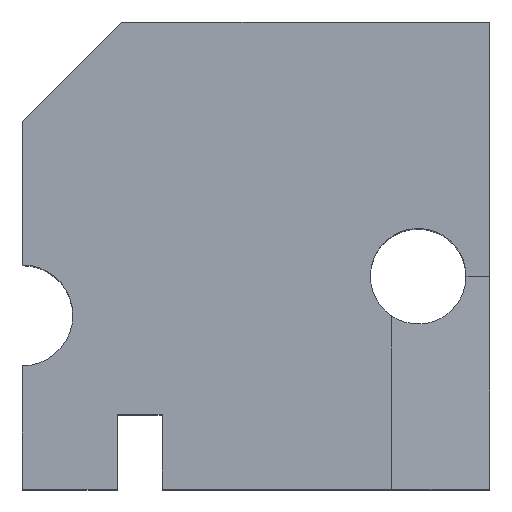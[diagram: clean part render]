
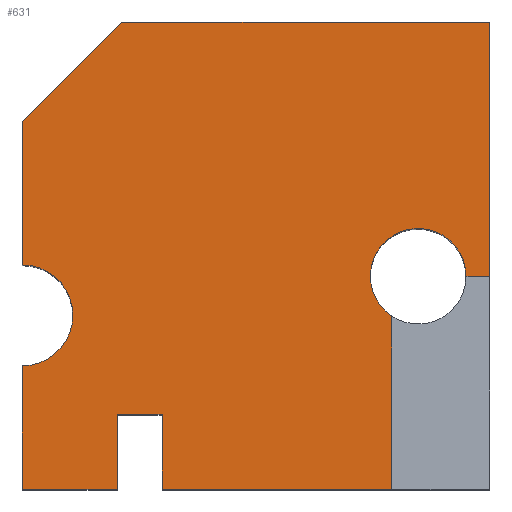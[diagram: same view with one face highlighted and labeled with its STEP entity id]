
A CAD part, top view. The second image highlights one B-rep face of the part: STEP entity #631.
In plain terms, the highlighted planar face has unit normal (0, 0, 1).
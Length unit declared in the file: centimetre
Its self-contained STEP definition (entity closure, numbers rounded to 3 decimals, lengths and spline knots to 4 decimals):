
#28 = LINE ( 'NONE', #947, #706 ) ;
#31 = VERTEX_POINT ( 'NONE', #771 ) ;
#32 = CARTESIAN_POINT ( 'NONE',  ( 790.2859, 455.4262, 1000. ) ) ;
#42 = CARTESIAN_POINT ( 'NONE',  ( 847.1311, 455.8057, 1000. ) ) ;
#52 = AXIS2_PLACEMENT_3D ( 'NONE', #979, #162, #62 ) ;
#54 = VECTOR ( 'NONE', #1083, 100. ) ;
#55 = DIRECTION ( 'NONE',  ( 0., 1., 0. ) ) ;
#56 = EDGE_CURVE ( 'NONE', #358, #1098, #28, .T. ) ;
#62 = DIRECTION ( 'NONE',  ( 1., 0., 0. ) ) ;
#73 = VERTEX_POINT ( 'NONE', #421 ) ;
#78 = AXIS2_PLACEMENT_3D ( 'NONE', #1107, #1118, #217 ) ;
#93 = CARTESIAN_POINT ( 'NONE',  ( 298.9238, 0., 1000. ) ) ;
#108 = DIRECTION ( 'NONE',  ( 0., 0., 1. ) ) ;
#116 = VERTEX_POINT ( 'NONE', #895 ) ;
#118 = CIRCLE ( 'NONE', #1010, 102.2725 ) ;
#134 = LINE ( 'NONE', #323, #977 ) ;
#138 = CIRCLE ( 'NONE', #78, 107.9586 ) ;
#143 = ORIENTED_EDGE ( 'NONE', *, *, #275, .T. ) ;
#145 = ORIENTED_EDGE ( 'NONE', *, *, #901, .F. ) ;
#162 = DIRECTION ( 'NONE',  ( 0., 0., 1. ) ) ;
#177 = CARTESIAN_POINT ( 'NONE',  ( 212.5578, 1000., 1000. ) ) ;
#198 = VERTEX_POINT ( 'NONE', #516 ) ;
#214 = EDGE_CURVE ( 'NONE', #1072, #554, #703, .T. ) ;
#217 = DIRECTION ( 'NONE',  ( -1., 0., 0. ) ) ;
#222 = VECTOR ( 'NONE', #55, 100. ) ;
#228 = AXIS2_PLACEMENT_3D ( 'NONE', #482, #108, #1004 ) ;
#261 = ORIENTED_EDGE ( 'NONE', *, *, #590, .T. ) ;
#271 = CARTESIAN_POINT ( 'NONE',  ( 203.0659, 159.9605, 1000. ) ) ;
#275 = EDGE_CURVE ( 'NONE', #1061, #471, #783, .T. ) ;
#279 = CARTESIAN_POINT ( 'NONE',  ( 0., 0., 1000. ) ) ;
#298 = EDGE_CURVE ( 'NONE', #471, #1019, #600, .T. ) ;
#301 = CARTESIAN_POINT ( 'NONE',  ( 744.8587, 455.8057, 1000. ) ) ;
#311 = DIRECTION ( 'NONE',  ( 0., -1., 0. ) ) ;
#314 = VECTOR ( 'NONE', #311, 100. ) ;
#320 = DIRECTION ( 'NONE',  ( 1., 0., 0. ) ) ;
#323 = CARTESIAN_POINT ( 'NONE',  ( 0., 0., 1000. ) ) ;
#344 = DIRECTION ( 'NONE',  ( 0., -1., 0. ) ) ;
#358 = VERTEX_POINT ( 'NONE', #279 ) ;
#361 = LINE ( 'NONE', #727, #512 ) ;
#372 = EDGE_CURVE ( 'NONE', #842, #358, #903, .T. ) ;
#373 = CARTESIAN_POINT ( 'NONE',  ( 949.4029, 455.4262, 1000. ) ) ;
#379 = DIRECTION ( 'NONE',  ( 0., 1., 0. ) ) ;
#411 = EDGE_CURVE ( 'NONE', #73, #794, #361, .T. ) ;
#415 = CIRCLE ( 'NONE', #228, 102.2725 ) ;
#421 = CARTESIAN_POINT ( 'NONE',  ( 1000., 455.4262, 1000. ) ) ;
#438 = VERTEX_POINT ( 'NONE', #1000 ) ;
#443 = ORIENTED_EDGE ( 'NONE', *, *, #837, .T. ) ;
#471 = VERTEX_POINT ( 'NONE', #855 ) ;
#482 = CARTESIAN_POINT ( 'NONE',  ( 847.1311, 455.8057, 1000. ) ) ;
#484 = LINE ( 'NONE', #32, #629 ) ;
#486 = DIRECTION ( 'NONE',  ( 1., 0., 0. ) ) ;
#489 = DIRECTION ( 'NONE',  ( 1., 0., 0. ) ) ;
#493 = LINE ( 'NONE', #861, #518 ) ;
#507 = DIRECTION ( 'NONE',  ( -0.707, -0.707, 0. ) ) ;
#512 = VECTOR ( 'NONE', #624, 100. ) ;
#514 = PLANE ( 'NONE',  #52 ) ;
#516 = CARTESIAN_POINT ( 'NONE',  ( 0., 480.0536, 1000. ) ) ;
#518 = VECTOR ( 'NONE', #1145, 100. ) ;
#554 = VERTEX_POINT ( 'NONE', #944 ) ;
#557 = LINE ( 'NONE', #841, #1044 ) ;
#562 = CARTESIAN_POINT ( 'NONE',  ( 1000., 1000., 1000. ) ) ;
#564 = VECTOR ( 'NONE', #589, 100. ) ;
#573 = AXIS2_PLACEMENT_3D ( 'NONE', #42, #684, #320 ) ;
#574 = VERTEX_POINT ( 'NONE', #301 ) ;
#578 = EDGE_CURVE ( 'NONE', #116, #31, #484, .T. ) ;
#587 = DIRECTION ( 'NONE',  ( 0., -1., 0. ) ) ;
#589 = DIRECTION ( 'NONE',  ( 1., 0., 0. ) ) ;
#590 = EDGE_CURVE ( 'NONE', #73, #685, #1048, .T. ) ;
#594 = FACE_OUTER_BOUND ( 'NONE', #847, .T. ) ;
#598 = CARTESIAN_POINT ( 'NONE',  ( 847.1311, 455.8057, 1000. ) ) ;
#600 = LINE ( 'NONE', #1140, #935 ) ;
#624 = DIRECTION ( 'NONE',  ( -1., 0., 0. ) ) ;
#629 = VECTOR ( 'NONE', #587, 100. ) ;
#631 = ADVANCED_FACE ( 'NONE', ( #594 ), #514, .T. ) ;
#637 = ORIENTED_EDGE ( 'NONE', *, *, #715, .F. ) ;
#673 = CARTESIAN_POINT ( 'NONE',  ( 203.0659, 0., 1000. ) ) ;
#674 = CARTESIAN_POINT ( 'NONE',  ( 0., 264.1365, 1000. ) ) ;
#684 = DIRECTION ( 'NONE',  ( 0., 0., 1. ) ) ;
#685 = VERTEX_POINT ( 'NONE', #562 ) ;
#703 = LINE ( 'NONE', #882, #760 ) ;
#706 = VECTOR ( 'NONE', #486, 100. ) ;
#715 = EDGE_CURVE ( 'NONE', #794, #438, #415, .T. ) ;
#716 = CARTESIAN_POINT ( 'NONE',  ( 203.0659, 159.9605, 1000. ) ) ;
#717 = ORIENTED_EDGE ( 'NONE', *, *, #214, .T. ) ;
#719 = ORIENTED_EDGE ( 'NONE', *, *, #869, .T. ) ;
#727 = CARTESIAN_POINT ( 'NONE',  ( 790.2859, 455.4262, 1000. ) ) ;
#735 = EDGE_CURVE ( 'NONE', #1098, #1061, #557, .T. ) ;
#741 = EDGE_CURVE ( 'NONE', #198, #842, #138, .T. ) ;
#751 = ORIENTED_EDGE ( 'NONE', *, *, #831, .F. ) ;
#758 = ORIENTED_EDGE ( 'NONE', *, *, #578, .F. ) ;
#760 = VECTOR ( 'NONE', #507, 100. ) ;
#771 = CARTESIAN_POINT ( 'NONE',  ( 790.2859, 0., 1000. ) ) ;
#773 = ORIENTED_EDGE ( 'NONE', *, *, #56, .T. ) ;
#783 = LINE ( 'NONE', #716, #564 ) ;
#794 = VERTEX_POINT ( 'NONE', #373 ) ;
#817 = ORIENTED_EDGE ( 'NONE', *, *, #298, .T. ) ;
#831 = EDGE_CURVE ( 'NONE', #574, #116, #1150, .T. ) ;
#837 = EDGE_CURVE ( 'NONE', #554, #198, #1144, .T. ) ;
#841 = CARTESIAN_POINT ( 'NONE',  ( 203.0659, 0., 1000. ) ) ;
#842 = VERTEX_POINT ( 'NONE', #674 ) ;
#847 = EDGE_LOOP ( 'NONE', ( #637, #1105, #261, #1174, #717, #443, #1142, #867, #773, #1092, #143, #817, #719, #758, #751, #145 ) ) ;
#855 = CARTESIAN_POINT ( 'NONE',  ( 298.9238, 159.9605, 1000. ) ) ;
#861 = CARTESIAN_POINT ( 'NONE',  ( 0., 1000., 1000. ) ) ;
#867 = ORIENTED_EDGE ( 'NONE', *, *, #372, .T. ) ;
#869 = EDGE_CURVE ( 'NONE', #1019, #31, #134, .T. ) ;
#873 = CARTESIAN_POINT ( 'NONE',  ( 0., 1000., 1000. ) ) ;
#882 = CARTESIAN_POINT ( 'NONE',  ( -393.7211, 393.7211, 1000. ) ) ;
#893 = CARTESIAN_POINT ( 'NONE',  ( 1000., 1000., 1000. ) ) ;
#895 = CARTESIAN_POINT ( 'NONE',  ( 790.2859, 370.7864, 1000. ) ) ;
#901 = EDGE_CURVE ( 'NONE', #438, #574, #118, .T. ) ;
#903 = LINE ( 'NONE', #1089, #54 ) ;
#935 = VECTOR ( 'NONE', #344, 100. ) ;
#944 = CARTESIAN_POINT ( 'NONE',  ( 0., 787.4422, 1000. ) ) ;
#947 = CARTESIAN_POINT ( 'NONE',  ( 0., 0., 1000. ) ) ;
#972 = DIRECTION ( 'NONE',  ( 0., 0., 1. ) ) ;
#977 = VECTOR ( 'NONE', #1060, 100. ) ;
#979 = CARTESIAN_POINT ( 'NONE',  ( 0., 0., 1000. ) ) ;
#1000 = CARTESIAN_POINT ( 'NONE',  ( 949.4036, 455.8057, 1000. ) ) ;
#1004 = DIRECTION ( 'NONE',  ( 1., 0., 0. ) ) ;
#1010 = AXIS2_PLACEMENT_3D ( 'NONE', #598, #972, #489 ) ;
#1019 = VERTEX_POINT ( 'NONE', #93 ) ;
#1044 = VECTOR ( 'NONE', #379, 100. ) ;
#1048 = LINE ( 'NONE', #893, #222 ) ;
#1060 = DIRECTION ( 'NONE',  ( 1., 0., 0. ) ) ;
#1061 = VERTEX_POINT ( 'NONE', #271 ) ;
#1072 = VERTEX_POINT ( 'NONE', #177 ) ;
#1083 = DIRECTION ( 'NONE',  ( 0., -1., 0. ) ) ;
#1089 = CARTESIAN_POINT ( 'NONE',  ( 0., 1000., 1000. ) ) ;
#1092 = ORIENTED_EDGE ( 'NONE', *, *, #735, .T. ) ;
#1098 = VERTEX_POINT ( 'NONE', #673 ) ;
#1105 = ORIENTED_EDGE ( 'NONE', *, *, #411, .F. ) ;
#1107 = CARTESIAN_POINT ( 'NONE',  ( 0., 372.095, 1000. ) ) ;
#1118 = DIRECTION ( 'NONE',  ( 0., 0., -1. ) ) ;
#1132 = EDGE_CURVE ( 'NONE', #685, #1072, #493, .T. ) ;
#1140 = CARTESIAN_POINT ( 'NONE',  ( 298.9238, 0., 1000. ) ) ;
#1142 = ORIENTED_EDGE ( 'NONE', *, *, #741, .T. ) ;
#1144 = LINE ( 'NONE', #873, #314 ) ;
#1145 = DIRECTION ( 'NONE',  ( -1., 0., 0. ) ) ;
#1150 = CIRCLE ( 'NONE', #573, 102.2725 ) ;
#1174 = ORIENTED_EDGE ( 'NONE', *, *, #1132, .T. ) ;
